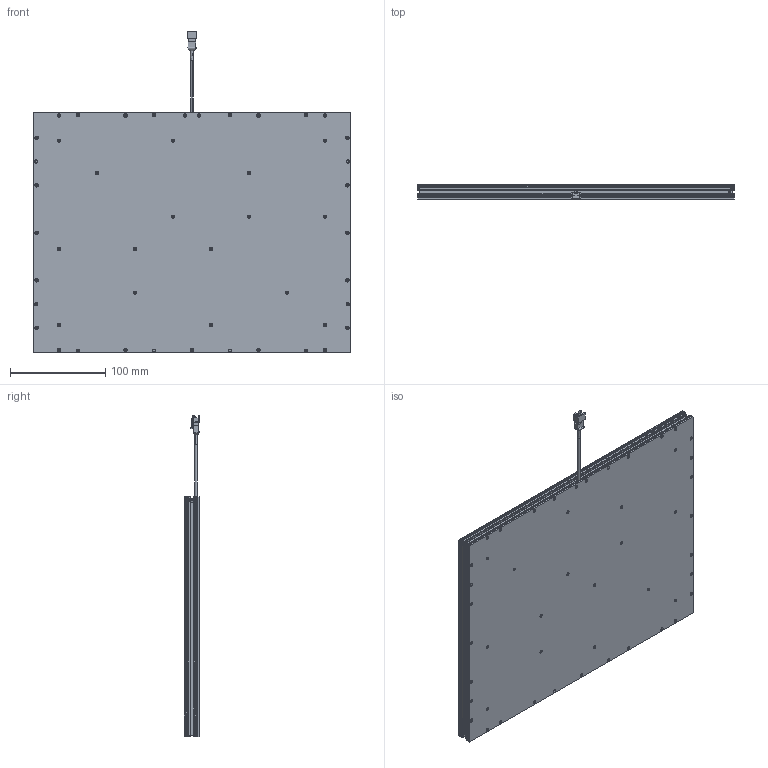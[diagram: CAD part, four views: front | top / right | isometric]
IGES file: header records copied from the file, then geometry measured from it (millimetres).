
Start section: SolidWorks IGES file using analytic representation for surfaces
Global section: file name: C:\Users\user\Downloads\TEMP_STEP\VDF-320240_Drawing_L1185A-A00100.IGS; native system: SolidWorks 2018; preprocessor: SolidWorks 2018; author: user; date: 231221.090000; units: millimetre
Bounding box: 333 x 16.55 x 338.88 mm (x, y, z)
Surface area: 302887.9 mm2 (no closed solid volume)
Topology: 0 solids, 0 shells, 695 faces, 9329 edges, 9329 vertices
Faces by surface type: bspline 386, revolution 309
